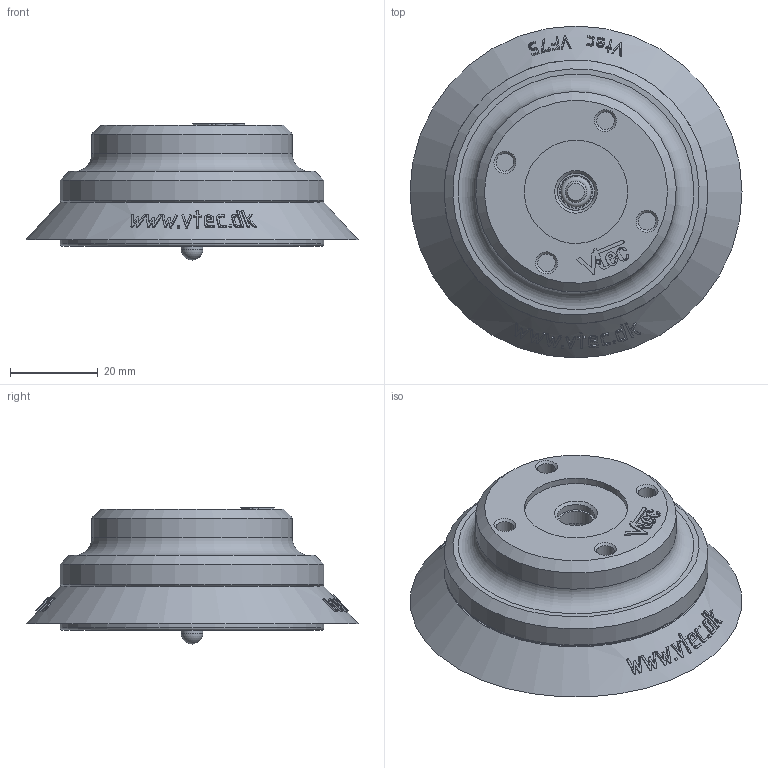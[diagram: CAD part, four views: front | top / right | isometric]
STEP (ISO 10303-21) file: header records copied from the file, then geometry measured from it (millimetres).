
FILE_DESCRIPTION( ( 'Unknown' ), '1' );
FILE_NAME( 'C:/Documents and Settings/owner/官帕 拳搁/MISUMI/PAD/VF/VF75-N-18FA-BV.stp', 'Unknown', ( 'Unknown' ), ( 'Unknown' ), 'XStep 1.0', 'Unknown', ' ' );
FILE_SCHEMA( ( 'automotive_design' ) );
Length unit declared in the file: millimetre
Products named in the file (5): Assem1; 1_1; 2_1; VF75 BV
Bounding box: 75.5 x 75.5 x 30.95 mm (x, y, z)
Volume: 102602 mm3; surface area: 47494.9 mm2
Topology: 8 solids, 8 shells, 748 faces, 1888 edges, 1252 vertices
Faces by surface type: plane 364, cylinder 160, bspline 122, cone 72, extrusion 18, torus 10, sphere 2
Full cylindrical faces by diameter (mm): 0.791 x2, 4 x16, 4.9 x2, 5 x2, 6 x8, 7.5 x2, 8.5 x2, 9 x2, 10.5 x2, 11 x2, 15 x4, 23.5 x2, 25 x2, 45.6 x2, 55 x4, 60 x2
Entity records: 16081 total; most frequent: CARTESIAN_POINT 7435, ORIENTED_EDGE 1760, DIRECTION 1530, EDGE_CURVE 880, AXIS2_PLACEMENT_3D 621, VERTEX_POINT 610, EDGE_LOOP 482, FACE_OUTER_BOUND 407
